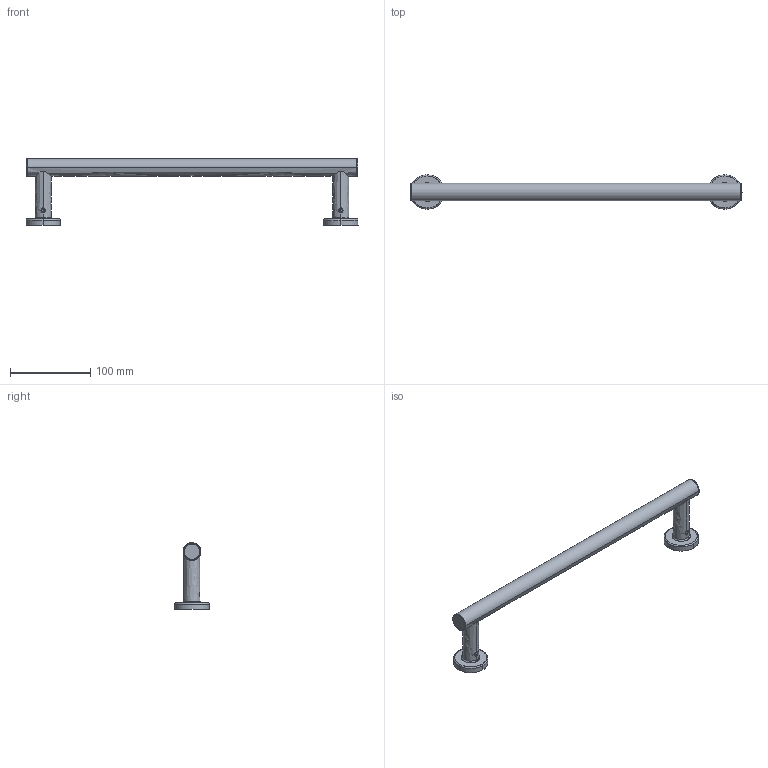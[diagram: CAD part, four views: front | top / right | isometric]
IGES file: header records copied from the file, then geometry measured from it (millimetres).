
Start section: SolidWorks IGES file using analytic representation for surfaces
Global section: file name: G:\Projects\New project\For Marketing\IGS\IGS\2050164VW.IGS; native system: SolidWorks 2010; preprocessor: SolidWorks 2010; author: linda; date: 151008.154144; units: millimetre
Bounding box: 415 x 43 x 83.13 mm (x, y, z)
Surface area: 48887.7 mm2 (no closed solid volume)
Topology: 0 solids, 0 shells, 154 faces, 2330 edges, 2330 vertices
Faces by surface type: bspline 86, revolution 68
